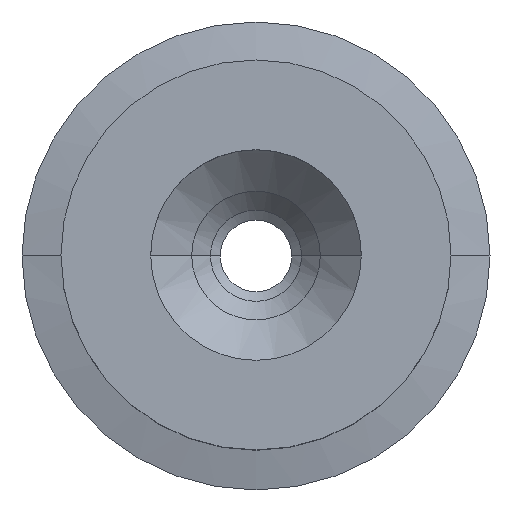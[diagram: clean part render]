
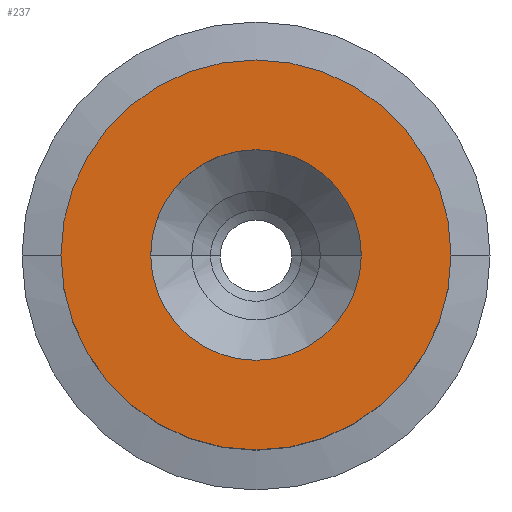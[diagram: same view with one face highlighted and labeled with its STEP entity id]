
A CAD part, top view. The second image highlights one B-rep face of the part: STEP entity #237.
In plain terms, the highlighted planar face has unit normal (0, 0, 1).
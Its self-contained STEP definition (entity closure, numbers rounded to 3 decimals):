
#2 = DIRECTION ( 'NONE',  ( 0., 0., -1. ) ) ;
#39 = AXIS2_PLACEMENT_3D ( 'NONE', #448, #263, #74 ) ;
#59 = CARTESIAN_POINT ( 'NONE',  ( -5., 0., 0. ) ) ;
#63 = FACE_OUTER_BOUND ( 'NONE', #259, .T. ) ;
#72 = PLANE ( 'NONE',  #743 ) ;
#74 = DIRECTION ( 'NONE',  ( 1., 0., 0. ) ) ;
#112 = EDGE_CURVE ( 'NONE', #634, #146, #686, .T. ) ;
#115 = CIRCLE ( 'NONE', #790, 5. ) ;
#132 = DIRECTION ( 'NONE',  ( 0., 0., 1. ) ) ;
#146 = VERTEX_POINT ( 'NONE', #574 ) ;
#159 = CARTESIAN_POINT ( 'NONE',  ( 0., 0., 0. ) ) ;
#205 = EDGE_CURVE ( 'NONE', #146, #634, #260, .T. ) ;
#237 = ADVANCED_FACE ( 'NONE', ( #481, #63 ), #72, .F. ) ;
#256 = EDGE_CURVE ( 'NONE', #478, #732, #115, .T. ) ;
#258 = EDGE_LOOP ( 'NONE', ( #885, #685 ) ) ;
#259 = EDGE_LOOP ( 'NONE', ( #725, #288 ) ) ;
#260 = CIRCLE ( 'NONE', #385, 2.7 ) ;
#263 = DIRECTION ( 'NONE',  ( 0., 0., 1. ) ) ;
#288 = ORIENTED_EDGE ( 'NONE', *, *, #256, .T. ) ;
#290 = DIRECTION ( 'NONE',  ( 1., 0., 0. ) ) ;
#332 = DIRECTION ( 'NONE',  ( 1., 0., 0. ) ) ;
#385 = AXIS2_PLACEMENT_3D ( 'NONE', #483, #132, #332 ) ;
#448 = CARTESIAN_POINT ( 'NONE',  ( 0., 0., 0. ) ) ;
#478 = VERTEX_POINT ( 'NONE', #59 ) ;
#481 = FACE_BOUND ( 'NONE', #258, .T. ) ;
#483 = CARTESIAN_POINT ( 'NONE',  ( 0., 0., 0. ) ) ;
#517 = CARTESIAN_POINT ( 'NONE',  ( 0., 0., 0. ) ) ;
#538 = DIRECTION ( 'NONE',  ( 0., 0., 1. ) ) ;
#545 = CARTESIAN_POINT ( 'NONE',  ( 0., 0., 0. ) ) ;
#574 = CARTESIAN_POINT ( 'NONE',  ( -2.7, 0., 0. ) ) ;
#589 = DIRECTION ( 'NONE',  ( 0., 0., 1. ) ) ;
#601 = AXIS2_PLACEMENT_3D ( 'NONE', #545, #538, #773 ) ;
#634 = VERTEX_POINT ( 'NONE', #905 ) ;
#685 = ORIENTED_EDGE ( 'NONE', *, *, #205, .F. ) ;
#686 = CIRCLE ( 'NONE', #39, 2.7 ) ;
#725 = ORIENTED_EDGE ( 'NONE', *, *, #913, .T. ) ;
#732 = VERTEX_POINT ( 'NONE', #914 ) ;
#743 = AXIS2_PLACEMENT_3D ( 'NONE', #517, #2, #942 ) ;
#773 = DIRECTION ( 'NONE',  ( 1., 0., 0. ) ) ;
#790 = AXIS2_PLACEMENT_3D ( 'NONE', #159, #589, #290 ) ;
#841 = CIRCLE ( 'NONE', #601, 5. ) ;
#885 = ORIENTED_EDGE ( 'NONE', *, *, #112, .F. ) ;
#905 = CARTESIAN_POINT ( 'NONE',  ( 2.7, 0., 0. ) ) ;
#913 = EDGE_CURVE ( 'NONE', #732, #478, #841, .T. ) ;
#914 = CARTESIAN_POINT ( 'NONE',  ( 5., 0., 0. ) ) ;
#942 = DIRECTION ( 'NONE',  ( -1., 0., 0. ) ) ;
